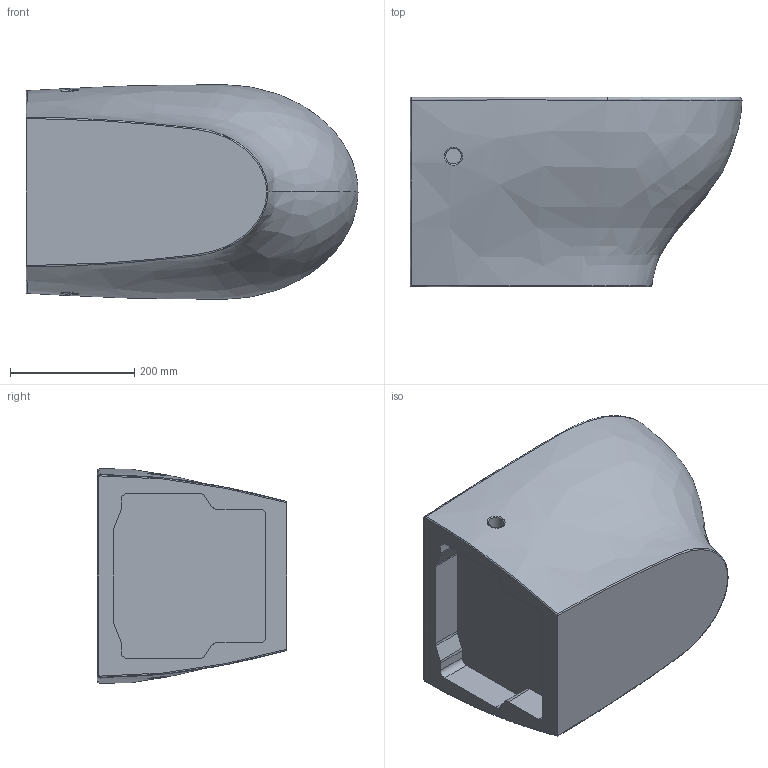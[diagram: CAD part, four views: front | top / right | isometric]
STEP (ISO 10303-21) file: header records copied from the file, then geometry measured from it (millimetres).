
FILE_DESCRIPTION (( 'STEP AP203' ), '1' );
FILE_NAME ('PABIS000000M.STEP', '2019-05-27T08:44:27', ( '' ), ( '' ), 'SwSTEP 2.0', 'SolidWorks 2019', '' );
FILE_SCHEMA (( 'CONFIG_CONTROL_DESIGN' ));
Length unit declared in the file: millimetre
Products named in the file (1): PABIS000000M
Bounding box: 534.05 x 305 x 345.28 mm (x, y, z)
Volume: 27927040.3 mm3; surface area: 829484.1 mm2
Topology: 1 solids, 1 shells, 76 faces, 192 edges, 124 vertices
Faces by surface type: bspline 28, cylinder 21, plane 21, torus 4, cone 2
Entity records: 8458 total; most frequent: CARTESIAN_POINT 6714, ORIENTED_EDGE 384, DIRECTION 299, EDGE_CURVE 192, VERTEX_POINT 124, AXIS2_PLACEMENT_3D 119, EDGE_LOOP 82, FACE_OUTER_BOUND 76
